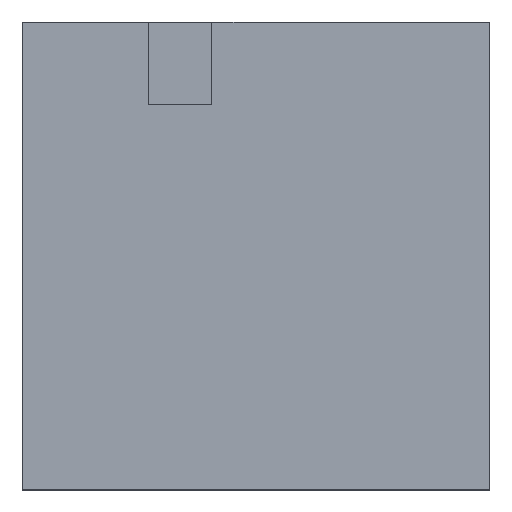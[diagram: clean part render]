
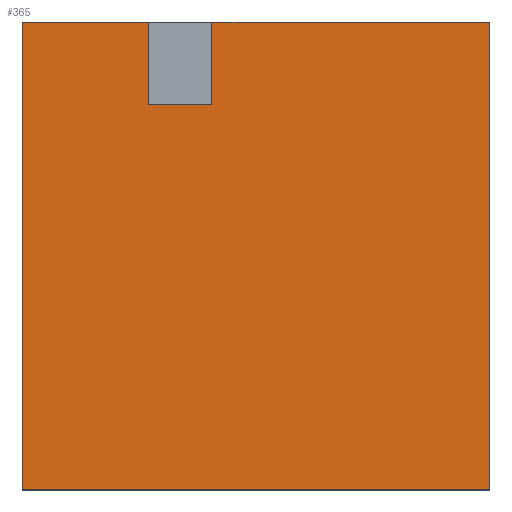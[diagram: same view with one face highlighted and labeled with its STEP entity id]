
A CAD part, top view. The second image highlights one B-rep face of the part: STEP entity #365.
In plain terms, the highlighted planar face has unit normal (0, 0, 1).
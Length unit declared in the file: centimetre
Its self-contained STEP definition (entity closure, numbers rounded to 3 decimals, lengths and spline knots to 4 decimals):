
#16 = ORIENTED_EDGE ( 'NONE', *, *, #331, .F. ) ;
#25 = CARTESIAN_POINT ( 'NONE',  ( 270.5727, 1000., 1000. ) ) ;
#55 = CARTESIAN_POINT ( 'NONE',  ( 0., 1000., 1000. ) ) ;
#58 = CARTESIAN_POINT ( 'NONE',  ( 405.7102, 824.0132, 1000. ) ) ;
#93 = VECTOR ( 'NONE', #242, 100. ) ;
#98 = CARTESIAN_POINT ( 'NONE',  ( 0., 0., 1000. ) ) ;
#122 = VECTOR ( 'NONE', #317, 100. ) ;
#134 = ORIENTED_EDGE ( 'NONE', *, *, #196, .T. ) ;
#155 = VECTOR ( 'NONE', #515, 100. ) ;
#165 = EDGE_CURVE ( 'NONE', #778, #542, #450, .T. ) ;
#170 = EDGE_CURVE ( 'NONE', #924, #632, #670, .T. ) ;
#182 = VECTOR ( 'NONE', #250, 100. ) ;
#186 = ORIENTED_EDGE ( 'NONE', *, *, #449, .T. ) ;
#192 = EDGE_LOOP ( 'NONE', ( #749, #907, #382, #229, #134, #186, #824, #16 ) ) ;
#196 = EDGE_CURVE ( 'NONE', #542, #572, #307, .T. ) ;
#229 = ORIENTED_EDGE ( 'NONE', *, *, #165, .T. ) ;
#232 = CARTESIAN_POINT ( 'NONE',  ( 1000., 0., 1000. ) ) ;
#237 = CARTESIAN_POINT ( 'NONE',  ( 1000., 1000., 1000. ) ) ;
#242 = DIRECTION ( 'NONE',  ( 0., 1., 0. ) ) ;
#250 = DIRECTION ( 'NONE',  ( 1., 0., 0. ) ) ;
#262 = LINE ( 'NONE', #544, #182 ) ;
#285 = VECTOR ( 'NONE', #332, 100. ) ;
#307 = LINE ( 'NONE', #440, #448 ) ;
#317 = DIRECTION ( 'NONE',  ( -1., 0., 0. ) ) ;
#331 = EDGE_CURVE ( 'NONE', #924, #405, #262, .T. ) ;
#332 = DIRECTION ( 'NONE',  ( 0., 1., 0. ) ) ;
#333 = DIRECTION ( 'NONE',  ( 0., 0., 1. ) ) ;
#341 = EDGE_CURVE ( 'NONE', #905, #778, #837, .T. ) ;
#349 = CARTESIAN_POINT ( 'NONE',  ( 270.5727, 824.0132, 1000. ) ) ;
#365 = ADVANCED_FACE ( 'NONE', ( #766 ), #404, .T. ) ;
#382 = ORIENTED_EDGE ( 'NONE', *, *, #341, .T. ) ;
#386 = VERTEX_POINT ( 'NONE', #412 ) ;
#404 = PLANE ( 'NONE',  #789 ) ;
#405 = VERTEX_POINT ( 'NONE', #58 ) ;
#412 = CARTESIAN_POINT ( 'NONE',  ( 405.7102, 1000., 1000. ) ) ;
#437 = CARTESIAN_POINT ( 'NONE',  ( 270.5727, 824.0132, 1000. ) ) ;
#440 = CARTESIAN_POINT ( 'NONE',  ( 1000., 1000., 1000. ) ) ;
#448 = VECTOR ( 'NONE', #592, 100. ) ;
#449 = EDGE_CURVE ( 'NONE', #572, #386, #630, .T. ) ;
#450 = LINE ( 'NONE', #98, #155 ) ;
#459 = LINE ( 'NONE', #625, #122 ) ;
#488 = CARTESIAN_POINT ( 'NONE',  ( 0., 1000., 1000. ) ) ;
#515 = DIRECTION ( 'NONE',  ( 1., 0., 0. ) ) ;
#538 = LINE ( 'NONE', #689, #285 ) ;
#542 = VERTEX_POINT ( 'NONE', #232 ) ;
#544 = CARTESIAN_POINT ( 'NONE',  ( 270.5727, 824.0132, 1000. ) ) ;
#555 = DIRECTION ( 'NONE',  ( 0., -1., 0. ) ) ;
#572 = VERTEX_POINT ( 'NONE', #237 ) ;
#592 = DIRECTION ( 'NONE',  ( 0., 1., 0. ) ) ;
#621 = DIRECTION ( 'NONE',  ( 1., 0., 0. ) ) ;
#625 = CARTESIAN_POINT ( 'NONE',  ( 0., 1000., 1000. ) ) ;
#630 = LINE ( 'NONE', #647, #839 ) ;
#632 = VERTEX_POINT ( 'NONE', #25 ) ;
#634 = DIRECTION ( 'NONE',  ( -1., 0., 0. ) ) ;
#647 = CARTESIAN_POINT ( 'NONE',  ( 0., 1000., 1000. ) ) ;
#670 = LINE ( 'NONE', #437, #93 ) ;
#689 = CARTESIAN_POINT ( 'NONE',  ( 405.7102, 824.0132, 1000. ) ) ;
#712 = VECTOR ( 'NONE', #555, 100. ) ;
#749 = ORIENTED_EDGE ( 'NONE', *, *, #170, .T. ) ;
#754 = CARTESIAN_POINT ( 'NONE',  ( 0., 0., 1000. ) ) ;
#766 = FACE_OUTER_BOUND ( 'NONE', #192, .T. ) ;
#767 = EDGE_CURVE ( 'NONE', #405, #386, #538, .T. ) ;
#774 = EDGE_CURVE ( 'NONE', #632, #905, #459, .T. ) ;
#778 = VERTEX_POINT ( 'NONE', #754 ) ;
#789 = AXIS2_PLACEMENT_3D ( 'NONE', #827, #333, #621 ) ;
#824 = ORIENTED_EDGE ( 'NONE', *, *, #767, .F. ) ;
#827 = CARTESIAN_POINT ( 'NONE',  ( 0., 0., 1000. ) ) ;
#837 = LINE ( 'NONE', #55, #712 ) ;
#839 = VECTOR ( 'NONE', #634, 100. ) ;
#905 = VERTEX_POINT ( 'NONE', #488 ) ;
#907 = ORIENTED_EDGE ( 'NONE', *, *, #774, .T. ) ;
#924 = VERTEX_POINT ( 'NONE', #349 ) ;
